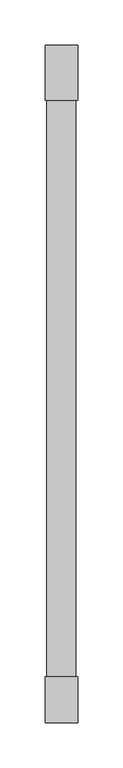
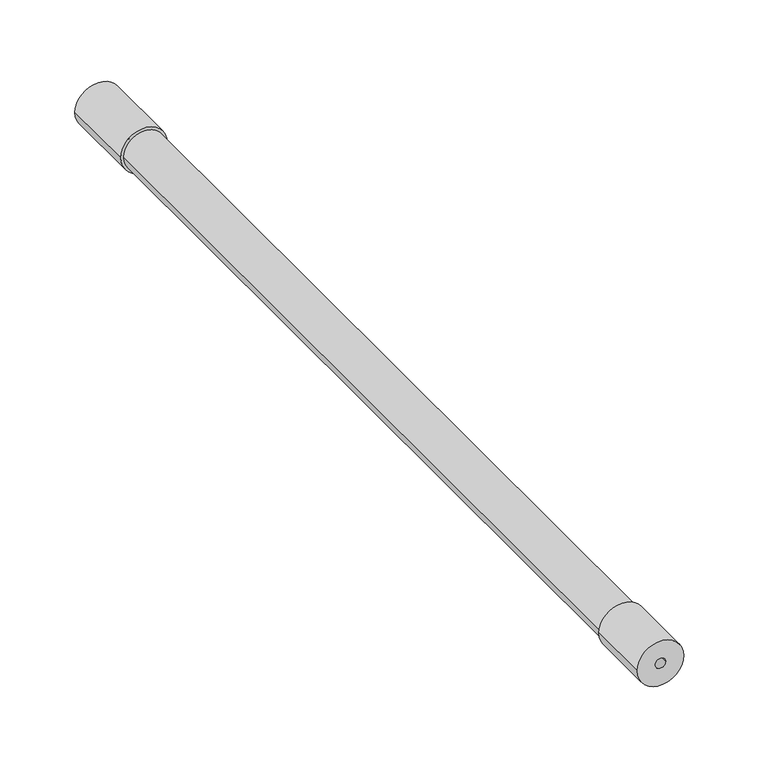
"""IFC4 building model written with IfcOpenShell, lengths in millimetres: proxy geometry, КНС_ШтангаИзоляционная_DKC : NF0750_Стеклопластик_750 мм."""

from ifc_helpers import new_model, si_unit, point, frame, origin, origin_2d, place, context, project, spatial, circle_curve, trimmed, segment, composite_curve, outline, extrude, source, transform, mapped, element, save


def security_devices_97b46f4d(model_context):
    return source(origin(), model_context, "Body", "SweptSolid", [
        extrude(outline(composite_curve([segment(trimmed(circle_curve(origin_2d(), 18.0), [point((0.0, -18.0))], [point((0.0, 18.0))], False, "CARTESIAN"), True, "CONTINUOUS"), segment(trimmed(circle_curve(origin_2d(), 18.0), [point((0.0, 18.0))], [point((0.0, -18.0))], False, "CARTESIAN"), True, "CONTINUOUS")], self_intersect=False), holes=[composite_curve([segment(trimmed(circle_curve(origin_2d(), 4.0), [point((0.0, -4.0))], [point((0.0, 4.0))], True, "CARTESIAN"), True, "CONTINUOUS"), segment(trimmed(circle_curve(origin_2d(), 4.0), [point((0.0, 4.0))], [point((0.0, -4.0))], True, "CARTESIAN"), True, "CONTINUOUS")], self_intersect=False)]), frame((0.0, 689.0, 0.0), z_axis=(0.0, 1.0, 0.0), x_axis=(0.0, 0.0, 1.0)), (0.0, 0.0, 1.0), 61.0),
        extrude(outline(composite_curve([segment(trimmed(circle_curve(origin_2d(), 16.0), [point((0.0, -16.0))], [point((0.0, 16.0))], False, "CARTESIAN"), True, "CONTINUOUS"), segment(trimmed(circle_curve(origin_2d(), 16.0), [point((0.0, 16.0))], [point((0.0, -16.0))], False, "CARTESIAN"), True, "CONTINUOUS")], self_intersect=False)), frame((0.0, 51.0, 0.0), z_axis=(0.0, 1.0, 0.0), x_axis=(0.0, 0.0, 1.0)), (0.0, 0.0, 1.0), 638.0),
        extrude(outline(composite_curve([segment(trimmed(circle_curve(origin_2d(), 18.0), [point((0.0, -18.0))], [point((0.0, 18.0))], False, "CARTESIAN"), True, "CONTINUOUS"), segment(trimmed(circle_curve(origin_2d(), 18.0), [point((0.0, 18.0))], [point((0.0, -18.0))], False, "CARTESIAN"), True, "CONTINUOUS")], self_intersect=False), holes=[composite_curve([segment(trimmed(circle_curve(origin_2d(), 4.0), [point((0.0, -4.0))], [point((0.0, 4.0))], True, "CARTESIAN"), True, "CONTINUOUS"), segment(trimmed(circle_curve(origin_2d(), 4.0), [point((0.0, 4.0))], [point((0.0, -4.0))], True, "CARTESIAN"), True, "CONTINUOUS")], self_intersect=False)]), frame((0.0, 0.0, 0.0), z_axis=(0.0, 1.0, 0.0), x_axis=(0.0, 0.0, 1.0)), (0.0, 0.0, 1.0), 51.0),
    ])


if __name__ == "__main__":
    model = new_model("IFC4")
    model_context = context("Model", 3, world=origin())
    ifc_project = project(units=[si_unit("LENGTHUNIT", "METRE", prefix="MILLI")], contexts=[model_context])
    site = spatial("IfcSite", under=ifc_project)
    building = spatial("IfcBuilding", under=site)
    placement = place(None, origin())
    security_devices_shape = security_devices_97b46f4d(model_context)
    element("IfcBuildingElementProxy", 1, Name="КНС_ШтангаИзоляционная_DKC : NF0750_Стеклопластик_750 мм", ObjectType="КНС_ШтангаИзоляционная_DKC : NF0750_Стеклопластик_750 мм", at=placement, inside=building, context=model_context, shape_type="MappedRepresentation", body=[
        mapped(security_devices_shape, transform((0.0, 0.0, 0.0), x_axis=(1.0, 0.0, 0.0), y_axis=(0.0, 1.0, 0.0), z_axis=(0.0, 0.0, 1.0))),
    ])
    save(model, "model.ifc")
